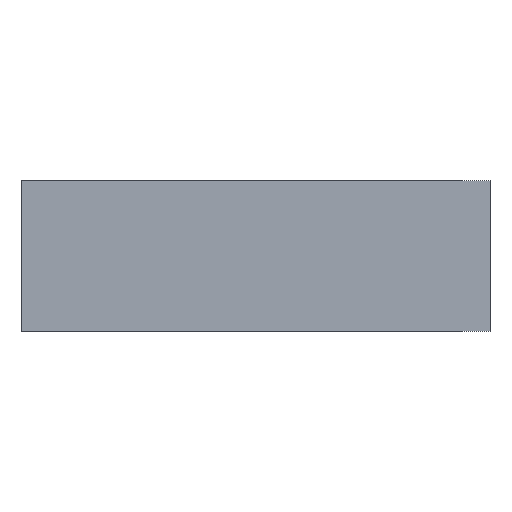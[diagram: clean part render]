
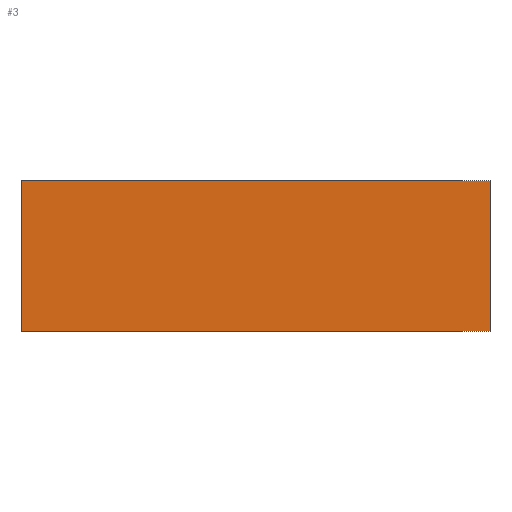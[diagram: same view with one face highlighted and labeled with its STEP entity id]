
A CAD part, front view. The second image highlights one B-rep face of the part: STEP entity #3.
In plain terms, the highlighted planar face has unit normal (0, -1, 0).
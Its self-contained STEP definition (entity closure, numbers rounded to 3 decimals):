
#3 = ADVANCED_FACE ( 'NONE', ( #437 ), #952, .F. ) ;
#214 = VECTOR ( 'NONE', #1221, 1000. ) ;
#215 = LINE ( 'NONE', #1220, #214 ) ;
#360 = VECTOR ( 'NONE', #1072, 1000. ) ;
#361 = LINE ( 'NONE', #1071, #360 ) ;
#364 = VECTOR ( 'NONE', #1068, 1000. ) ;
#365 = LINE ( 'NONE', #1067, #364 ) ;
#382 = VECTOR ( 'NONE', #1050, 1000. ) ;
#383 = LINE ( 'NONE', #1049, #382 ) ;
#437 = FACE_OUTER_BOUND ( 'NONE', #456, .T. ) ;
#456 = EDGE_LOOP ( 'NONE', ( #488, #487, #486, #485 ) ) ;
#485 = ORIENTED_EDGE ( 'NONE', *, *, #579, .T. ) ;
#486 = ORIENTED_EDGE ( 'NONE', *, *, #655, .F. ) ;
#487 = ORIENTED_EDGE ( 'NONE', *, *, #581, .F. ) ;
#488 = ORIENTED_EDGE ( 'NONE', *, *, #570, .T. ) ;
#570 = EDGE_CURVE ( 'NONE', #927, #928, #383, .T. ) ;
#579 = EDGE_CURVE ( 'NONE', #919, #927, #365, .T. ) ;
#581 = EDGE_CURVE ( 'NONE', #913, #928, #361, .T. ) ;
#655 = EDGE_CURVE ( 'NONE', #919, #913, #215, .T. ) ;
#673 = AXIS2_PLACEMENT_3D ( 'NONE', #875, #869, #868 ) ;
#763 = CARTESIAN_POINT ( 'NONE',  ( 101., 0., 65. ) ) ;
#769 = CARTESIAN_POINT ( 'NONE',  ( -101., 0., 65. ) ) ;
#777 = CARTESIAN_POINT ( 'NONE',  ( -101., 0., 0. ) ) ;
#778 = CARTESIAN_POINT ( 'NONE',  ( 101., 0., 0. ) ) ;
#868 = DIRECTION ( 'NONE',  ( -1., 0., 0. ) ) ;
#869 = DIRECTION ( 'NONE',  ( 0., 1., 0. ) ) ;
#875 = CARTESIAN_POINT ( 'NONE',  ( -101., 0., 65. ) ) ;
#913 = VERTEX_POINT ( 'NONE', #763 ) ;
#919 = VERTEX_POINT ( 'NONE', #769 ) ;
#927 = VERTEX_POINT ( 'NONE', #777 ) ;
#928 = VERTEX_POINT ( 'NONE', #778 ) ;
#952 = PLANE ( 'NONE',  #673 ) ;
#1049 = CARTESIAN_POINT ( 'NONE',  ( -101., 0., 0. ) ) ;
#1050 = DIRECTION ( 'NONE',  ( 1., 0., 0. ) ) ;
#1067 = CARTESIAN_POINT ( 'NONE',  ( -101., 0., 65. ) ) ;
#1068 = DIRECTION ( 'NONE',  ( 0., 0., -1. ) ) ;
#1071 = CARTESIAN_POINT ( 'NONE',  ( 101., 0., 65. ) ) ;
#1072 = DIRECTION ( 'NONE',  ( 0., 0., -1. ) ) ;
#1220 = CARTESIAN_POINT ( 'NONE',  ( -101., 0., 65. ) ) ;
#1221 = DIRECTION ( 'NONE',  ( 1., 0., 0. ) ) ;
